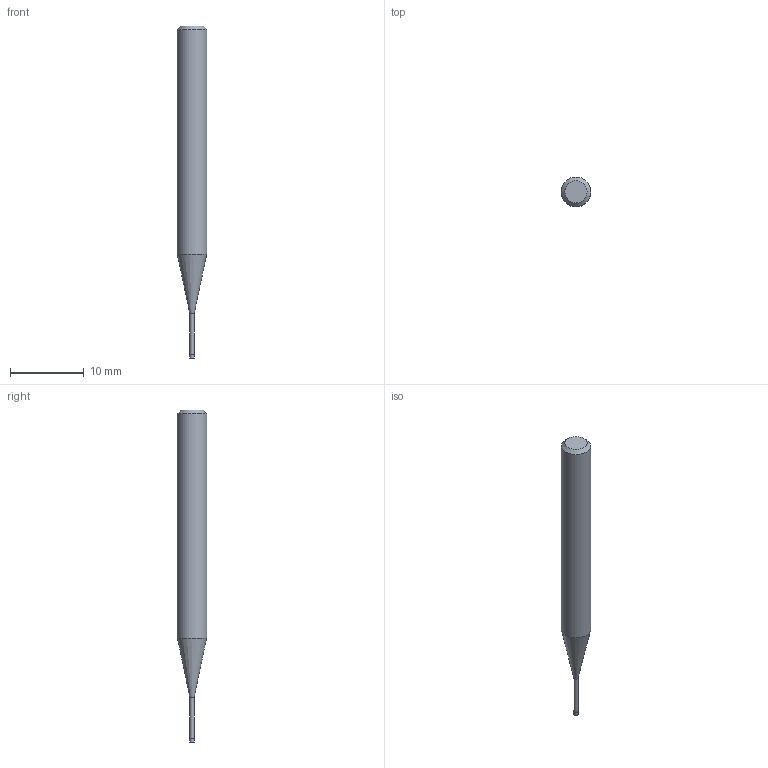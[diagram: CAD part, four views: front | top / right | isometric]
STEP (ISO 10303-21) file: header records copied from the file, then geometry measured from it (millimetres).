
FILE_DESCRIPTION((''),'2;1');
FILE_NAME('C:\Users\nsx150\AppData\Local\Temp\Mastercam 2021\RJ5U8K7RMU\TEMP.step','2021-04-21T16:40:30',(''),(''),'STEP Write','Mastercam 2021 ... CNC Software, Inc.','');
FILE_SCHEMA(('AUTOMOTIVE_DESIGN'));
Length unit declared in the file: millimetre
Products named in the file (1): None
Bounding box: 4 x 4 x 45 mm (x, y, z)
Volume: 427.8 mm3; surface area: 467.6 mm2
Topology: 2 solids, 2 shells, 9 faces, 12 edges, 7 vertices
Faces by surface type: plane 4, cylinder 3, cone 2
Full cylindrical faces by diameter (mm): 0.56 x1, 0.6 x1, 4 x1
Entity records: 211 total; most frequent: DIRECTION 36, CARTESIAN_POINT 25, AXIS2_PLACEMENT_3D 18, ORIENTED_EDGE 14, EDGE_LOOP 14, STYLED_ITEM 12, ADVANCED_FACE 9, FACE_BOUND 8
